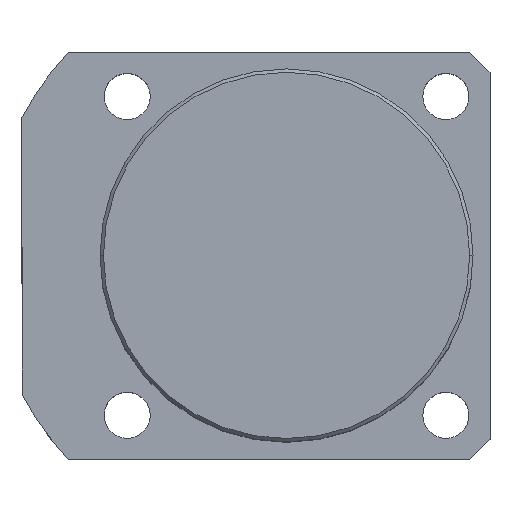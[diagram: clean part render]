
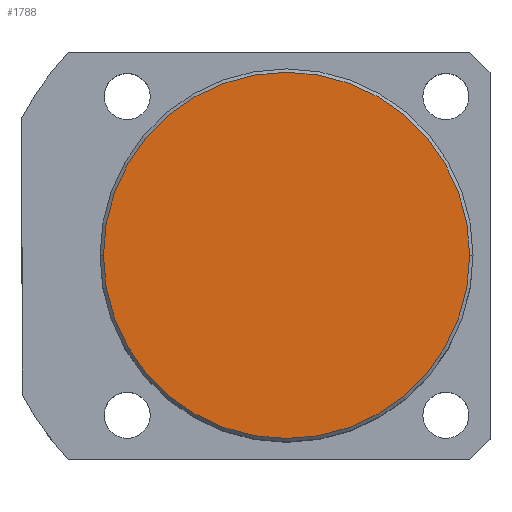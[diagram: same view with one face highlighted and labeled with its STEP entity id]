
A CAD part, top view. The second image highlights one B-rep face of the part: STEP entity #1788.
In plain terms, the highlighted planar face has unit normal (0, 0, 1).
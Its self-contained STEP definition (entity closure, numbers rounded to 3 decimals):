
#69 = VERTEX_POINT ( 'NONE', #1092 ) ;
#70 = CIRCLE ( 'NONE', #862, 27. ) ;
#73 = DIRECTION ( 'NONE',  ( 1., 0., 0. ) ) ;
#243 = DIRECTION ( 'NONE',  ( 0., 0., 1. ) ) ;
#308 = AXIS2_PLACEMENT_3D ( 'NONE', #1088, #913, #488 ) ;
#338 = EDGE_CURVE ( 'NONE', #69, #1939, #744, .T. ) ;
#453 = AXIS2_PLACEMENT_3D ( 'NONE', #977, #243, #73 ) ;
#488 = DIRECTION ( 'NONE',  ( 1., 0., 0. ) ) ;
#744 = CIRCLE ( 'NONE', #453, 27. ) ;
#862 = AXIS2_PLACEMENT_3D ( 'NONE', #1022, #1184, #1950 ) ;
#913 = DIRECTION ( 'NONE',  ( 0., 0., 1. ) ) ;
#929 = EDGE_LOOP ( 'NONE', ( #1216, #1676 ) ) ;
#977 = CARTESIAN_POINT ( 'NONE',  ( 0., 0., 50. ) ) ;
#1022 = CARTESIAN_POINT ( 'NONE',  ( 0., 0., 50. ) ) ;
#1088 = CARTESIAN_POINT ( 'NONE',  ( 0., 0., 50. ) ) ;
#1092 = CARTESIAN_POINT ( 'NONE',  ( -27., 0., 50. ) ) ;
#1184 = DIRECTION ( 'NONE',  ( 0., 0., 1. ) ) ;
#1216 = ORIENTED_EDGE ( 'NONE', *, *, #338, .T. ) ;
#1236 = PLANE ( 'NONE',  #308 ) ;
#1385 = EDGE_CURVE ( 'NONE', #1939, #69, #70, .T. ) ;
#1595 = CARTESIAN_POINT ( 'NONE',  ( 27., 0., 50. ) ) ;
#1676 = ORIENTED_EDGE ( 'NONE', *, *, #1385, .T. ) ;
#1777 = FACE_OUTER_BOUND ( 'NONE', #929, .T. ) ;
#1788 = ADVANCED_FACE ( 'NONE', ( #1777 ), #1236, .T. ) ;
#1939 = VERTEX_POINT ( 'NONE', #1595 ) ;
#1950 = DIRECTION ( 'NONE',  ( 1., 0., 0. ) ) ;
